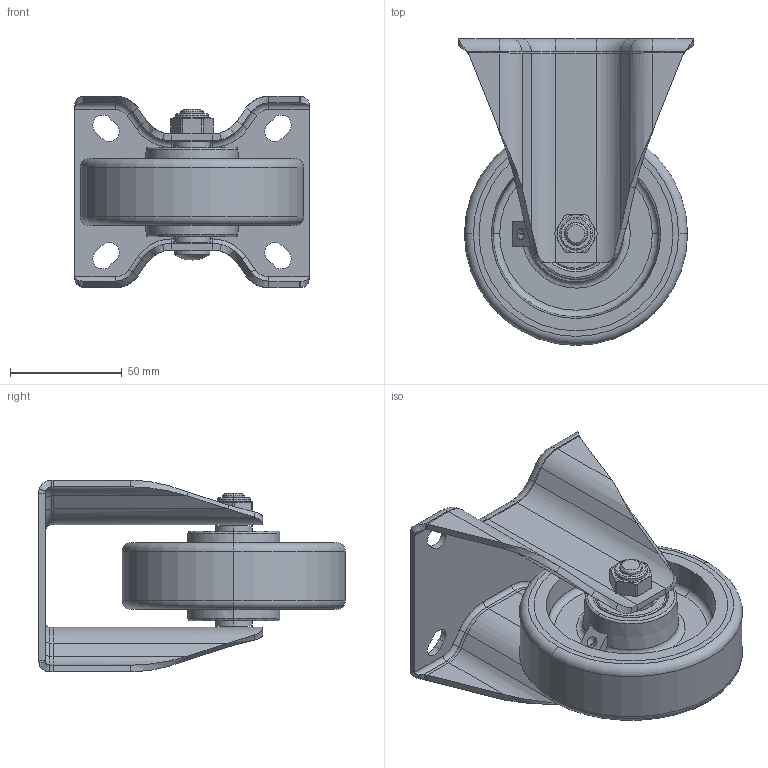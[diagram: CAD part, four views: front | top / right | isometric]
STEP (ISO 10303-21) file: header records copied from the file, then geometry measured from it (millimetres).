
FILE_DESCRIPTION((''),'2;1');
FILE_NAME('66104_ASM','2024-04-27T',('Lenovo'),(''),'PRO/ENGINEER BY PARAMETRIC TECHNOLOGY CORPORATION, 2010280','PRO/ENGINEER BY PARAMETRIC TECHNOLOGY CORPORATION, 2010280','');
FILE_SCHEMA(('CONFIG_CONTROL_DESIGN'));
Length unit declared in the file: millimetre
Products named in the file (9): 644-10; 674-986AA; 6201; 500-66; 630-54A; 674-86A_ASM; 630-33A; 630-34; 66104_ASM
Assembly tree (10 placements, depth 3):
  66104_ASM
    644-10
    674-86A_ASM
      674-986AA
      6201  x2
      500-66  x2
      630-54A
    630-33A
    630-34
Bounding box: 105 x 137.5 x 85.97 mm (x, y, z)
Volume: 170599.3 mm3; surface area: 113544.2 mm2
Topology: 37 solids, 38 shells, 411 faces, 944 edges, 510 vertices
Faces by surface type: cylinder 128, plane 120, torus 61, sphere 54, cone 32, bspline 16
Entity records: 10386 total; most frequent: CARTESIAN_POINT 2488, DIRECTION 1751, ORIENTED_EDGE 1484, EDGE_CURVE 742, AXIS2_PLACEMENT_3D 709, VERTEX_POINT 444, EDGE_LOOP 386, FACE_OUTER_BOUND 351
